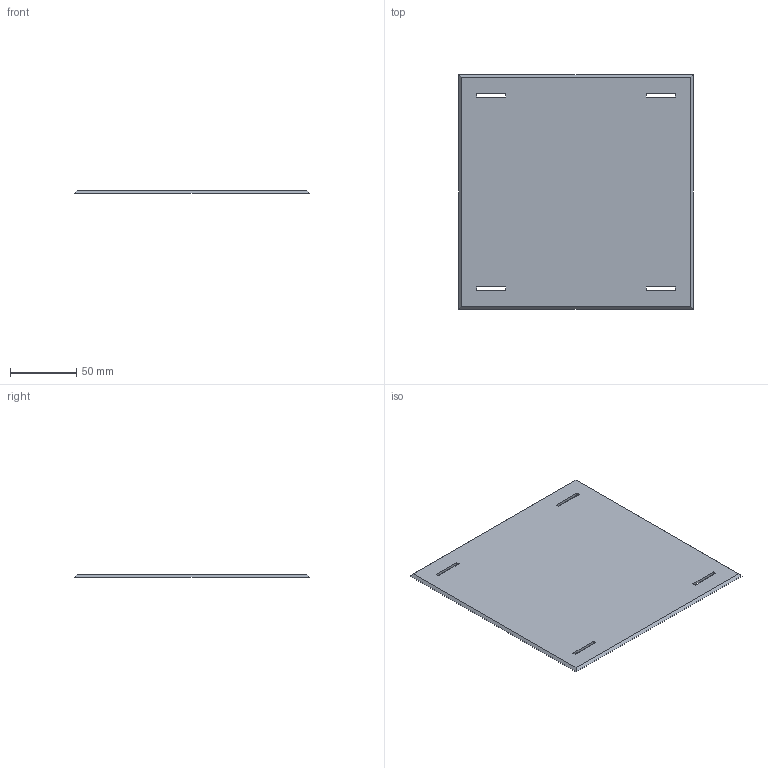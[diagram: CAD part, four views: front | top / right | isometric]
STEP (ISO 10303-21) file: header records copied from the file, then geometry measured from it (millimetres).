
FILE_DESCRIPTION (( 'STEP AP214' ), '1' );
FILE_NAME ('SC53.STEP', '2016-02-27T09:43:40', ( '' ), ( '' ), 'SwSTEP 2.0', 'SolidWorks 2012', '' );
FILE_SCHEMA (( 'AUTOMOTIVE_DESIGN' ));
Length unit declared in the file: millimetre
Products named in the file (1): SC53
Bounding box: 177 x 177 x 2 mm (x, y, z)
Volume: 60830.3 mm3; surface area: 63205.9 mm2
Topology: 1 solids, 1 shells, 22 faces, 60 edges, 40 vertices
Faces by surface type: plane 22
Entity records: 734 total; most frequent: CARTESIAN_POINT 123, ORIENTED_EDGE 120, DIRECTION 106, VECTOR 60, LINE 60, EDGE_CURVE 60, VERTEX_POINT 40, EDGE_LOOP 30
